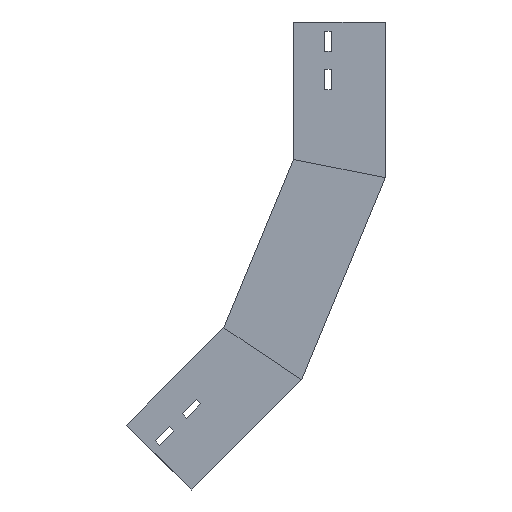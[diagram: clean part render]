
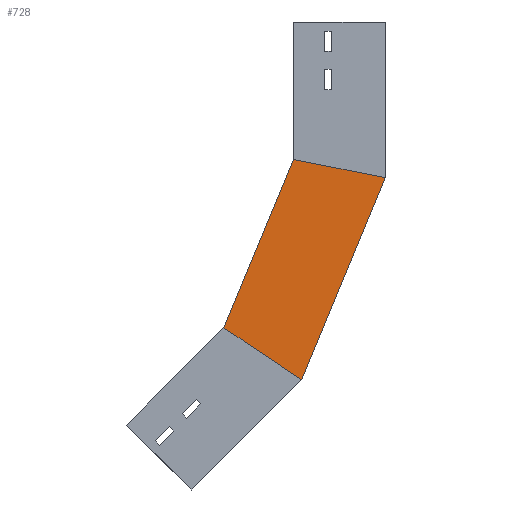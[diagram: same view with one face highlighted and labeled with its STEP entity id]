
A CAD part, left-side view. The second image highlights one B-rep face of the part: STEP entity #728.
In plain terms, the highlighted planar face has unit normal (-1, 0, 0) as drawn and (1, 0, 0) by its records, which use the part's own axes.
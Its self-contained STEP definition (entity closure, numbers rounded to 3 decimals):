
#37 = CARTESIAN_POINT ( 'NONE',  ( 0., 175.893, -332.93 ) ) ;
#84 = VERTEX_POINT ( 'NONE', #37 ) ;
#85 = CARTESIAN_POINT ( 'NONE',  ( 0., 32.452, -163.145 ) ) ;
#101 = LINE ( 'NONE', #85, #656 ) ;
#106 = CARTESIAN_POINT ( 'NONE',  ( 0., 0., -169.6 ) ) ;
#112 = EDGE_CURVE ( 'NONE', #84, #217, #289, .T. ) ;
#202 = CARTESIAN_POINT ( 'NONE',  ( 0., 92.388, -131.332 ) ) ;
#217 = VERTEX_POINT ( 'NONE', #316 ) ;
#289 = LINE ( 'NONE', #1316, #1260 ) ;
#316 = CARTESIAN_POINT ( 'NONE',  ( 0., 91.117, -389.576 ) ) ;
#349 = EDGE_CURVE ( 'NONE', #1229, #217, #350, .T. ) ;
#350 = LINE ( 'NONE', #1261, #935 ) ;
#385 = VECTOR ( 'NONE', #1328, 1000. ) ;
#405 = CARTESIAN_POINT ( 'NONE',  ( 0., 0., -169.6 ) ) ;
#411 = DIRECTION ( 'NONE',  ( -1., 0., 0. ) ) ;
#527 = LINE ( 'NONE', #202, #385 ) ;
#556 = DIRECTION ( 'NONE',  ( 0., 0.383, -0.924 ) ) ;
#590 = ORIENTED_EDGE ( 'NONE', *, *, #1050, .T. ) ;
#610 = ORIENTED_EDGE ( 'NONE', *, *, #349, .T. ) ;
#617 = EDGE_CURVE ( 'NONE', #652, #84, #527, .T. ) ;
#649 = PLANE ( 'NONE',  #1453 ) ;
#652 = VERTEX_POINT ( 'NONE', #881 ) ;
#656 = VECTOR ( 'NONE', #894, 1000. ) ;
#663 = ORIENTED_EDGE ( 'NONE', *, *, #112, .F. ) ;
#723 = DIRECTION ( 'NONE',  ( 0., -0.831, -0.556 ) ) ;
#728 = ADVANCED_FACE ( 'NONE', ( #1222 ), #649, .F. ) ;
#881 = CARTESIAN_POINT ( 'NONE',  ( 0., 100., -149.709 ) ) ;
#894 = DIRECTION ( 'NONE',  ( 0., -0.981, -0.195 ) ) ;
#926 = EDGE_LOOP ( 'NONE', ( #1021, #590, #610, #663 ) ) ;
#935 = VECTOR ( 'NONE', #556, 1000. ) ;
#1021 = ORIENTED_EDGE ( 'NONE', *, *, #617, .F. ) ;
#1050 = EDGE_CURVE ( 'NONE', #652, #1229, #101, .T. ) ;
#1108 = DIRECTION ( 'NONE',  ( 0., 0., 1. ) ) ;
#1222 = FACE_OUTER_BOUND ( 'NONE', #926, .T. ) ;
#1229 = VERTEX_POINT ( 'NONE', #106 ) ;
#1260 = VECTOR ( 'NONE', #723, 1000. ) ;
#1261 = CARTESIAN_POINT ( 'NONE',  ( 0., 0., -169.6 ) ) ;
#1316 = CARTESIAN_POINT ( 'NONE',  ( 0., 129.74, -363.769 ) ) ;
#1328 = DIRECTION ( 'NONE',  ( 0., 0.383, -0.924 ) ) ;
#1453 = AXIS2_PLACEMENT_3D ( 'NONE', #405, #411, #1108 ) ;
